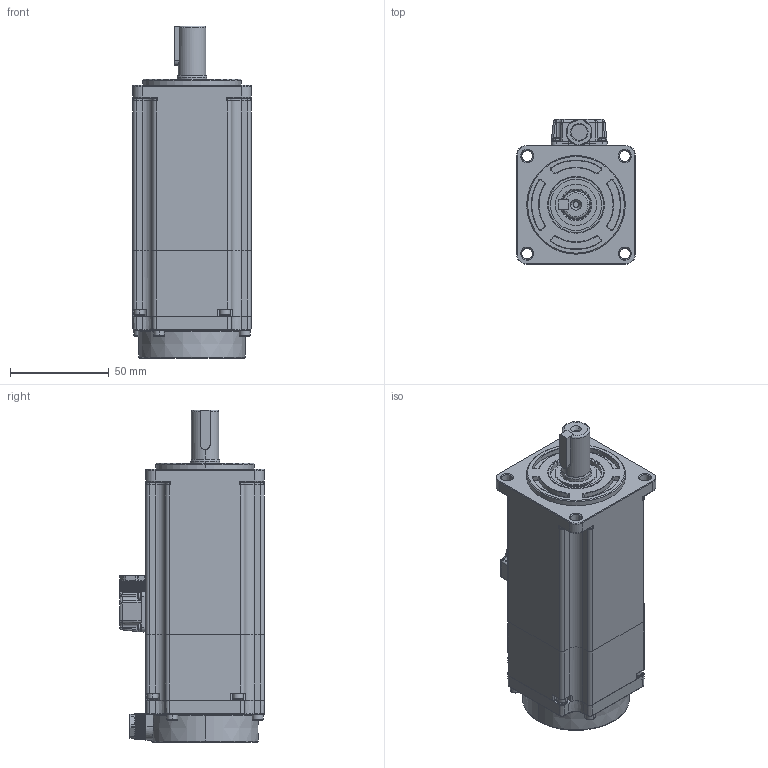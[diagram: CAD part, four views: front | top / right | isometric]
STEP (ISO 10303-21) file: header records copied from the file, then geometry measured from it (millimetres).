
FILE_DESCRIPTION (( 'STEP AP203' ), '1' );
FILE_NAME ('G3系列60ST-600W刹车电机三维图.STEP', '2022-05-28T07:23:26', ( '微软用户' ), ( '微软中国' ), 'SwSTEP 2.0', 'SolidWorks 2016', '' );
FILE_SCHEMA (( 'CONFIG_CONTROL_DESIGN' ));
Length unit declared in the file: millimetre
Products named in the file (1): G3系列60ST-600W刹车电机三维图
Bounding box: 60.2 x 73.5 x 168.3 mm (x, y, z)
Volume: 163005.1 mm3; surface area: 101163.2 mm2
Topology: 21 solids, 21 shells, 2971 faces, 7247 edges, 4411 vertices
Faces by surface type: plane 1622, cylinder 560, cone 489, bspline 167, torus 117, sphere 16
Entity records: 90920 total; most frequent: CARTESIAN_POINT 21433, DIRECTION 14666, ORIENTED_EDGE 14446, EDGE_CURVE 7223, AXIS2_PLACEMENT_3D 5260, VERTEX_POINT 4411, VECTOR 4146, LINE 4146
